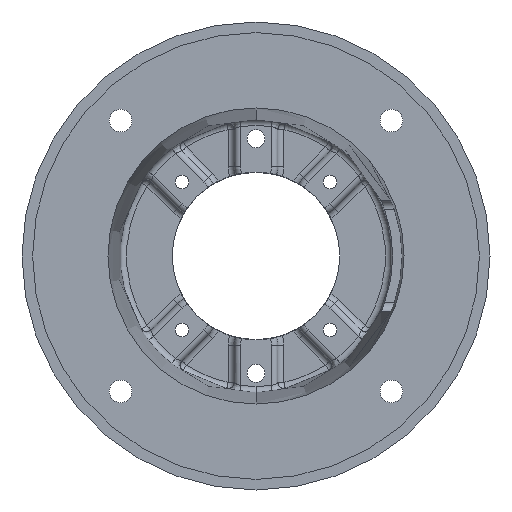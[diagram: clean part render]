
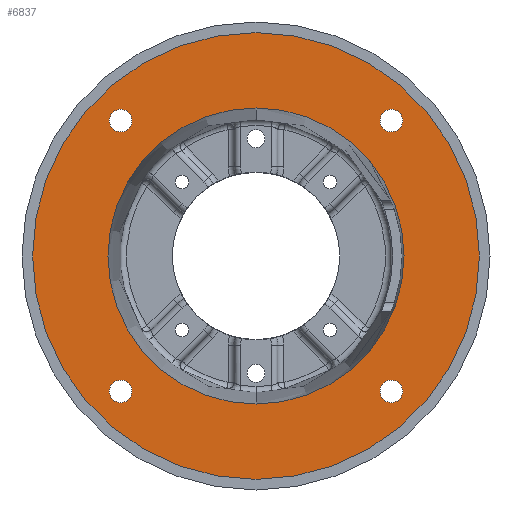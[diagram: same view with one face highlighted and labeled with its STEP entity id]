
A CAD part, front view. The second image highlights one B-rep face of the part: STEP entity #6837.
In plain terms, the highlighted planar face has unit normal (0, -1, 0).
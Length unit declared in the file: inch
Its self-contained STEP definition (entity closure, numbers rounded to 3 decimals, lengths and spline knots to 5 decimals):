
#119 = DIRECTION ( 'NONE',  ( 0., -1., 0. ) ) ;
#384 = CIRCLE ( 'NONE', #4995, 0.26562 ) ;
#645 = EDGE_CURVE ( 'NONE', #12726, #10173, #1659, .T. ) ;
#670 = VERTEX_POINT ( 'NONE', #4185 ) ;
#807 = DIRECTION ( 'NONE',  ( 0., -1., 0. ) ) ;
#970 = FACE_BOUND ( 'NONE', #3958, .T. ) ;
#1001 = CARTESIAN_POINT ( 'NONE',  ( -3.18198, 0.18, -3.18198 ) ) ;
#1199 = EDGE_CURVE ( 'NONE', #5412, #14318, #384, .T. ) ;
#1254 = CARTESIAN_POINT ( 'NONE',  ( 3.18198, 0.18, 3.18198 ) ) ;
#1582 = ORIENTED_EDGE ( 'NONE', *, *, #645, .T. ) ;
#1659 = CIRCLE ( 'NONE', #10379, 5.2505 ) ;
#1755 = VERTEX_POINT ( 'NONE', #12802 ) ;
#1956 = CARTESIAN_POINT ( 'NONE',  ( 0., 0.18, 5.2505 ) ) ;
#2202 = AXIS2_PLACEMENT_3D ( 'NONE', #1001, #12386, #4311 ) ;
#2342 = AXIS2_PLACEMENT_3D ( 'NONE', #3396, #11281, #4552 ) ;
#2441 = DIRECTION ( 'NONE',  ( 0., 0., -1. ) ) ;
#2465 = CARTESIAN_POINT ( 'NONE',  ( -3.18198, 0.18, 2.91636 ) ) ;
#2491 = EDGE_LOOP ( 'NONE', ( #8588, #1582 ) ) ;
#2506 = EDGE_CURVE ( 'NONE', #1755, #4520, #4242, .T. ) ;
#2614 = ORIENTED_EDGE ( 'NONE', *, *, #3480, .F. ) ;
#2630 = CIRCLE ( 'NONE', #10462, 3.47973 ) ;
#3022 = DIRECTION ( 'NONE',  ( 0., -1., 0. ) ) ;
#3072 = CARTESIAN_POINT ( 'NONE',  ( 0., 0.18, -5.2505 ) ) ;
#3290 = AXIS2_PLACEMENT_3D ( 'NONE', #8626, #14145, #7540 ) ;
#3314 = EDGE_CURVE ( 'NONE', #14318, #5412, #8511, .T. ) ;
#3396 = CARTESIAN_POINT ( 'NONE',  ( 3.18198, 0.18, -3.18198 ) ) ;
#3398 = AXIS2_PLACEMENT_3D ( 'NONE', #9827, #3022, #10912 ) ;
#3480 = EDGE_CURVE ( 'NONE', #4520, #1755, #10751, .T. ) ;
#3715 = FACE_BOUND ( 'NONE', #5776, .T. ) ;
#3741 = ORIENTED_EDGE ( 'NONE', *, *, #14551, .T. ) ;
#3913 = EDGE_CURVE ( 'NONE', #5772, #6121, #12797, .T. ) ;
#3958 = EDGE_LOOP ( 'NONE', ( #10038, #2614 ) ) ;
#4050 = DIRECTION ( 'NONE',  ( 0., 1., 0. ) ) ;
#4070 = CIRCLE ( 'NONE', #11761, 0.26562 ) ;
#4185 = CARTESIAN_POINT ( 'NONE',  ( 3.18198, 0.18, -3.44761 ) ) ;
#4242 = CIRCLE ( 'NONE', #13872, 0.26562 ) ;
#4311 = DIRECTION ( 'NONE',  ( 0., 0., -1. ) ) ;
#4404 = CARTESIAN_POINT ( 'NONE',  ( 0., 0.18, 0. ) ) ;
#4520 = VERTEX_POINT ( 'NONE', #4992 ) ;
#4552 = DIRECTION ( 'NONE',  ( 0., 0., -1. ) ) ;
#4608 = DIRECTION ( 'NONE',  ( 0., 0., -1. ) ) ;
#4624 = DIRECTION ( 'NONE',  ( 0., -1., 0. ) ) ;
#4626 = CARTESIAN_POINT ( 'NONE',  ( 0., 0.18, 0. ) ) ;
#4980 = CIRCLE ( 'NONE', #11203, 3.47973 ) ;
#4992 = CARTESIAN_POINT ( 'NONE',  ( -3.18198, 0.18, -2.91636 ) ) ;
#4995 = AXIS2_PLACEMENT_3D ( 'NONE', #14176, #14120, #14071 ) ;
#5231 = ORIENTED_EDGE ( 'NONE', *, *, #3913, .F. ) ;
#5412 = VERTEX_POINT ( 'NONE', #2465 ) ;
#5564 = DIRECTION ( 'NONE',  ( 0., 0., -1. ) ) ;
#5772 = VERTEX_POINT ( 'NONE', #12274 ) ;
#5776 = EDGE_LOOP ( 'NONE', ( #13120, #5231 ) ) ;
#5936 = DIRECTION ( 'NONE',  ( 0., -1., 0. ) ) ;
#6121 = VERTEX_POINT ( 'NONE', #13849 ) ;
#6220 = CIRCLE ( 'NONE', #14240, 5.2505 ) ;
#6408 = FACE_BOUND ( 'NONE', #11018, .T. ) ;
#6415 = PLANE ( 'NONE',  #3290 ) ;
#6547 = DIRECTION ( 'NONE',  ( 0., -1., 0. ) ) ;
#6781 = FACE_BOUND ( 'NONE', #7170, .T. ) ;
#6837 = ADVANCED_FACE ( 'NONE', ( #9750, #3715, #6781, #970, #9394, #6408 ), #6415, .T. ) ;
#7044 = CARTESIAN_POINT ( 'NONE',  ( -3.18198, 0.18, -3.18198 ) ) ;
#7170 = EDGE_LOOP ( 'NONE', ( #7632, #13841 ) ) ;
#7324 = EDGE_CURVE ( 'NONE', #10173, #12726, #6220, .T. ) ;
#7538 = ORIENTED_EDGE ( 'NONE', *, *, #14588, .T. ) ;
#7540 = DIRECTION ( 'NONE',  ( 0., 0., -1. ) ) ;
#7591 = EDGE_CURVE ( 'NONE', #6121, #5772, #4070, .T. ) ;
#7632 = ORIENTED_EDGE ( 'NONE', *, *, #12247, .F. ) ;
#7688 = CARTESIAN_POINT ( 'NONE',  ( 0., 0.18, -3.47973 ) ) ;
#7719 = CARTESIAN_POINT ( 'NONE',  ( -3.18198, 0.18, 3.18198 ) ) ;
#7763 = CARTESIAN_POINT ( 'NONE',  ( 3.18198, 0.18, -2.91636 ) ) ;
#8181 = DIRECTION ( 'NONE',  ( 0., 0., -1. ) ) ;
#8219 = EDGE_CURVE ( 'NONE', #9468, #670, #11294, .T. ) ;
#8442 = CARTESIAN_POINT ( 'NONE',  ( -3.18198, 0.18, 3.44761 ) ) ;
#8511 = CIRCLE ( 'NONE', #13051, 0.26562 ) ;
#8588 = ORIENTED_EDGE ( 'NONE', *, *, #7324, .T. ) ;
#8600 = ORIENTED_EDGE ( 'NONE', *, *, #1199, .F. ) ;
#8626 = CARTESIAN_POINT ( 'NONE',  ( 0., 0.18, 0. ) ) ;
#8855 = DIRECTION ( 'NONE',  ( 0., 0., -1. ) ) ;
#9279 = DIRECTION ( 'NONE',  ( 0., -1., 0. ) ) ;
#9394 = FACE_OUTER_BOUND ( 'NONE', #2491, .T. ) ;
#9468 = VERTEX_POINT ( 'NONE', #7763 ) ;
#9579 = AXIS2_PLACEMENT_3D ( 'NONE', #12598, #5936, #13692 ) ;
#9750 = FACE_BOUND ( 'NONE', #10164, .T. ) ;
#9827 = CARTESIAN_POINT ( 'NONE',  ( 3.18198, 0.18, -3.18198 ) ) ;
#10038 = ORIENTED_EDGE ( 'NONE', *, *, #2506, .F. ) ;
#10164 = EDGE_LOOP ( 'NONE', ( #8600, #11435 ) ) ;
#10173 = VERTEX_POINT ( 'NONE', #3072 ) ;
#10379 = AXIS2_PLACEMENT_3D ( 'NONE', #4626, #4624, #4608 ) ;
#10462 = AXIS2_PLACEMENT_3D ( 'NONE', #10784, #4050, #11900 ) ;
#10751 = CIRCLE ( 'NONE', #2202, 0.26562 ) ;
#10784 = CARTESIAN_POINT ( 'NONE',  ( 0., 0.18, 0. ) ) ;
#10912 = DIRECTION ( 'NONE',  ( 0., 0., -1. ) ) ;
#11018 = EDGE_LOOP ( 'NONE', ( #3741, #7538 ) ) ;
#11203 = AXIS2_PLACEMENT_3D ( 'NONE', #4404, #12243, #5564 ) ;
#11281 = DIRECTION ( 'NONE',  ( 0., -1., 0. ) ) ;
#11294 = CIRCLE ( 'NONE', #3398, 0.26562 ) ;
#11435 = ORIENTED_EDGE ( 'NONE', *, *, #3314, .F. ) ;
#11761 = AXIS2_PLACEMENT_3D ( 'NONE', #1254, #9279, #2441 ) ;
#11900 = DIRECTION ( 'NONE',  ( 0., 0., -1. ) ) ;
#12243 = DIRECTION ( 'NONE',  ( 0., 1., 0. ) ) ;
#12247 = EDGE_CURVE ( 'NONE', #670, #9468, #13609, .T. ) ;
#12274 = CARTESIAN_POINT ( 'NONE',  ( 3.18198, 0.18, 3.44761 ) ) ;
#12386 = DIRECTION ( 'NONE',  ( 0., -1., 0. ) ) ;
#12598 = CARTESIAN_POINT ( 'NONE',  ( 3.18198, 0.18, 3.18198 ) ) ;
#12718 = VERTEX_POINT ( 'NONE', #14355 ) ;
#12726 = VERTEX_POINT ( 'NONE', #1956 ) ;
#12797 = CIRCLE ( 'NONE', #9579, 0.26562 ) ;
#12802 = CARTESIAN_POINT ( 'NONE',  ( -3.18198, 0.18, -3.44761 ) ) ;
#13051 = AXIS2_PLACEMENT_3D ( 'NONE', #7719, #807, #8855 ) ;
#13120 = ORIENTED_EDGE ( 'NONE', *, *, #7591, .F. ) ;
#13166 = VERTEX_POINT ( 'NONE', #7688 ) ;
#13191 = CARTESIAN_POINT ( 'NONE',  ( 0., 0.18, 0. ) ) ;
#13609 = CIRCLE ( 'NONE', #2342, 0.26562 ) ;
#13692 = DIRECTION ( 'NONE',  ( 0., 0., -1. ) ) ;
#13841 = ORIENTED_EDGE ( 'NONE', *, *, #8219, .F. ) ;
#13849 = CARTESIAN_POINT ( 'NONE',  ( 3.18198, 0.18, 2.91636 ) ) ;
#13872 = AXIS2_PLACEMENT_3D ( 'NONE', #7044, #119, #8181 ) ;
#14071 = DIRECTION ( 'NONE',  ( 0., 0., -1. ) ) ;
#14120 = DIRECTION ( 'NONE',  ( 0., -1., 0. ) ) ;
#14145 = DIRECTION ( 'NONE',  ( 0., -1., 0. ) ) ;
#14176 = CARTESIAN_POINT ( 'NONE',  ( -3.18198, 0.18, 3.18198 ) ) ;
#14240 = AXIS2_PLACEMENT_3D ( 'NONE', #13191, #6547, #14273 ) ;
#14273 = DIRECTION ( 'NONE',  ( 0., 0., -1. ) ) ;
#14318 = VERTEX_POINT ( 'NONE', #8442 ) ;
#14355 = CARTESIAN_POINT ( 'NONE',  ( 0., 0.18, 3.47973 ) ) ;
#14551 = EDGE_CURVE ( 'NONE', #13166, #12718, #2630, .T. ) ;
#14588 = EDGE_CURVE ( 'NONE', #12718, #13166, #4980, .T. ) ;
